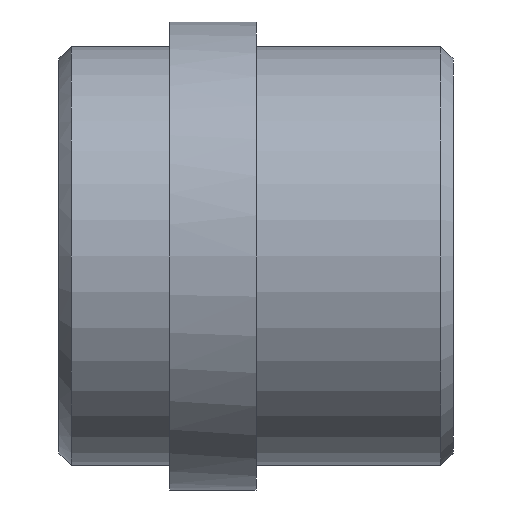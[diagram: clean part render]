
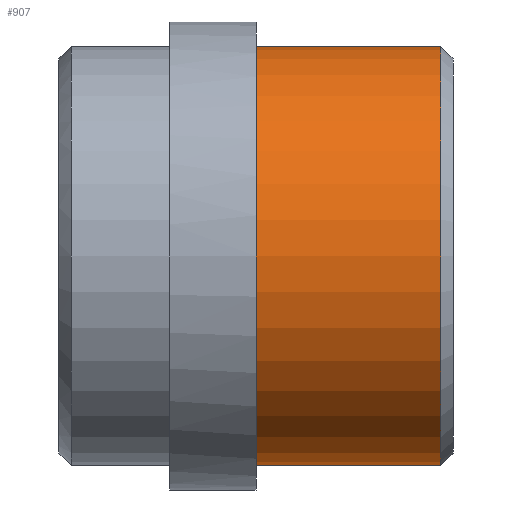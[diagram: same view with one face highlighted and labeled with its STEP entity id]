
A CAD part, front view. The second image highlights one B-rep face of the part: STEP entity #907.
In plain terms, the highlighted cylindrical face has radius 17 mm (diameter 34 mm), a partial arc.
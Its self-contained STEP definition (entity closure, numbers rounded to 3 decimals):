
#773=CARTESIAN_POINT('Vertex',(0.,0.,-17.)) ;
#778=CARTESIAN_POINT('Axis2P3D Location',(0.,0.,0.)) ;
#782=CARTESIAN_POINT('Vertex',(0.,-17.,0.)) ;
#785=CARTESIAN_POINT('Axis2P3D Location',(0.,0.,0.)) ;
#789=CARTESIAN_POINT('Vertex',(0.,0.,17.)) ;
#813=CARTESIAN_POINT('Vertex',(15.,0.,17.)) ;
#820=CARTESIAN_POINT('Vertex',(15.,0.,-17.)) ;
#849=CARTESIAN_POINT('Axis2P3D Location',(15.,0.,0.)) ;
#853=CARTESIAN_POINT('Vertex',(15.,-17.,0.)) ;
#856=CARTESIAN_POINT('Axis2P3D Location',(15.,0.,0.)) ;
#875=CARTESIAN_POINT('Line Origine',(16.,0.,17.)) ;
#880=CARTESIAN_POINT('Line Origine',(16.,0.,-17.)) ;
#894=CARTESIAN_POINT('Axis2P3D Location',(16.,0.,0.)) ;
#779=DIRECTION('Axis2P3D Direction',(1.,0.,-0.)) ;
#786=DIRECTION('Axis2P3D Direction',(1.,0.,-0.)) ;
#850=DIRECTION('Axis2P3D Direction',(-1.,0.,0.)) ;
#857=DIRECTION('Axis2P3D Direction',(-1.,0.,0.)) ;
#876=DIRECTION('Vector Direction',(-1.,0.,0.)) ;
#881=DIRECTION('Vector Direction',(-1.,0.,0.)) ;
#895=DIRECTION('Axis2P3D Direction',(-1.,-0.,-0.)) ;
#896=DIRECTION('Axis2P3D XDirection',(0.,0.,-1.)) ;
#780=AXIS2_PLACEMENT_3D('Circle Axis2P3D',#778,#779,$) ;
#787=AXIS2_PLACEMENT_3D('Circle Axis2P3D',#785,#786,$) ;
#851=AXIS2_PLACEMENT_3D('Circle Axis2P3D',#849,#850,$) ;
#858=AXIS2_PLACEMENT_3D('Circle Axis2P3D',#856,#857,$) ;
#897=AXIS2_PLACEMENT_3D('Cylinder Axis2P3D',#894,#895,#896) ;
#900=ORIENTED_EDGE('',*,*,#884,.T.) ;
#901=ORIENTED_EDGE('',*,*,#860,.F.) ;
#902=ORIENTED_EDGE('',*,*,#855,.F.) ;
#903=ORIENTED_EDGE('',*,*,#879,.T.) ;
#904=ORIENTED_EDGE('',*,*,#791,.T.) ;
#905=ORIENTED_EDGE('',*,*,#784,.T.) ;
#877=VECTOR('Line Direction',#876,1.) ;
#882=VECTOR('Line Direction',#881,1.) ;
#907=ADVANCED_FACE('354-25X32',(#906),#898,.T.) ;
#781=CIRCLE('generated circle',#780,17.) ;
#788=CIRCLE('generated circle',#787,17.) ;
#852=CIRCLE('generated circle',#851,17.) ;
#859=CIRCLE('generated circle',#858,17.) ;
#898=CYLINDRICAL_SURFACE('generated cylinder',#897,17.) ;
#784=EDGE_CURVE('',#783,#774,#781,.T.) ;
#791=EDGE_CURVE('',#790,#783,#788,.T.) ;
#855=EDGE_CURVE('',#814,#854,#852,.F.) ;
#860=EDGE_CURVE('',#854,#821,#859,.F.) ;
#879=EDGE_CURVE('',#814,#790,#878,.T.) ;
#884=EDGE_CURVE('',#774,#821,#883,.F.) ;
#899=EDGE_LOOP('',(#900,#901,#902,#903,#904,#905)) ;
#906=FACE_OUTER_BOUND('',#899,.T.) ;
#878=LINE('Line',#875,#877) ;
#883=LINE('Line',#880,#882) ;
#774=VERTEX_POINT('',#773) ;
#783=VERTEX_POINT('',#782) ;
#790=VERTEX_POINT('',#789) ;
#814=VERTEX_POINT('',#813) ;
#821=VERTEX_POINT('',#820) ;
#854=VERTEX_POINT('',#853) ;
